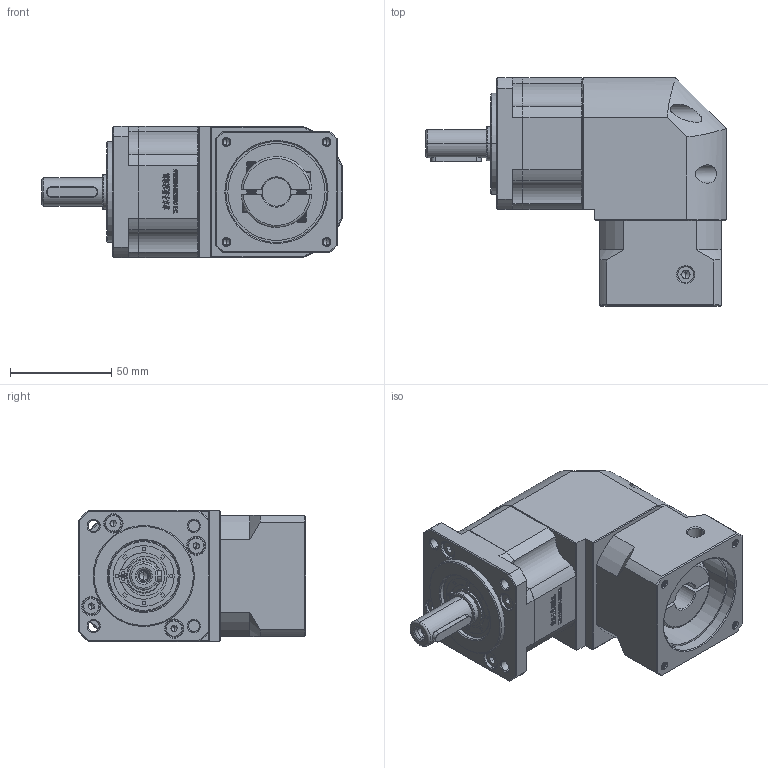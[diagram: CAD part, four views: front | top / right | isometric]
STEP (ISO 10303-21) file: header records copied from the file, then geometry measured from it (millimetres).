
FILE_DESCRIPTION (( 'STEP AP214' ), '1' );
FILE_NAME ('ZBR60-D14-L1-14-50-70-M4.STEP', '2022-04-19T08:51:40', ( '' ), ( 'Microsoft' ), 'SwSTEP 2.0', 'SolidWorks 2016', '' );
FILE_SCHEMA (( 'AUTOMOTIVE_DESIGN' ));
Length unit declared in the file: millimetre
Products named in the file (1): ZBR60-D14-L1-14-50-70-M4
Bounding box: 148.5 x 112.7 x 65 mm (x, y, z)
Volume: 525759.6 mm3; surface area: 77377.2 mm2
Topology: 5 solids, 5 shells, 2835 faces, 7661 edges, 4962 vertices
Faces by surface type: plane 1472, bspline 591, cylinder 424, cone 326, torus 22
Entity records: 152853 total; most frequent: CARTESIAN_POINT 54835, ORIENTED_EDGE 15262, DIRECTION 11585, EDGE_CURVE 7631, VECTOR 5037, LINE 5037, VERTEX_POINT 4962, AXIS2_PLACEMENT_3D 3274
